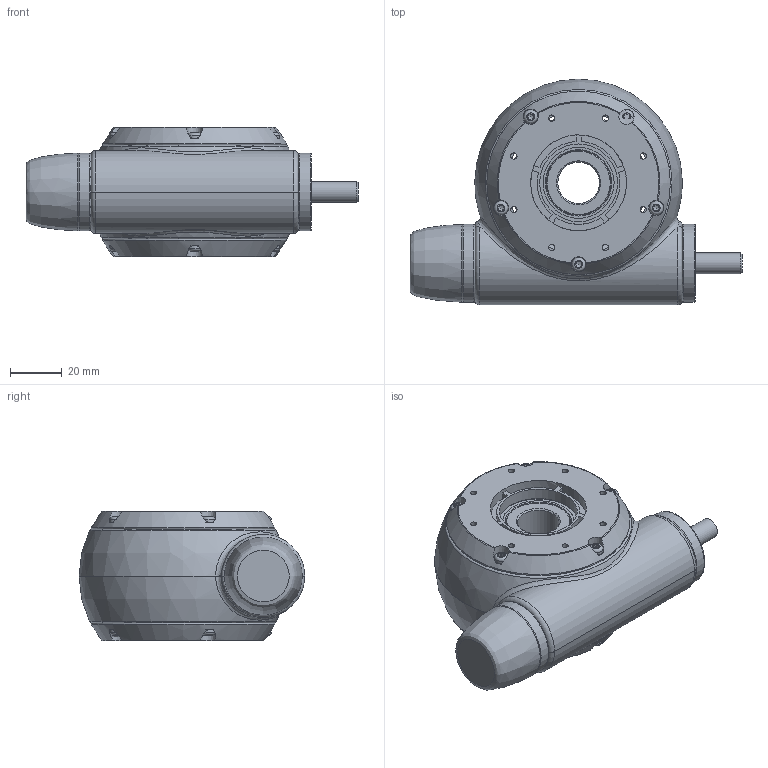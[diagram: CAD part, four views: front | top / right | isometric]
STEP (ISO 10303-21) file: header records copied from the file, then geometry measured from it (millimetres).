
FILE_DESCRIPTION(/* description */ (''),/* implementation_level */ '2;1');
FILE_NAME(/* name */ 'C:\ProgramData\PROCAD GmbH & Co. KG\NdfWork\343216_NdfWork\D00296340.step',/* time_stamp */ '2021-03-15T16:40:49+01:00',/* author */ ('fberger'),/* organization */ (''),/* preprocessor_version */ 'ST-DEVELOPER v18.1',/* originating_system */ 'Autodesk Inventor 2020',/* authorisation */ '');
FILE_SCHEMA (('AUTOMOTIVE_DESIGN { 1 0 10303 214 3 1 1 }'));
Length unit declared in the file: millimetre
Products named in the file (16): D00296340.iam; D00169642.ipt; D00169186.ipt; D00188918.ipt; D00184198.ipt; D00189428.ipt; D00188941.ipt; D00169185; D00187704.ipt; D00187700.ipt; D00187707.ipt; D00189422.ipt; D00270782.ipt; D00169074.ipt; D00170045.ipt; D00169073.ipt
Assembly tree (31 placements, depth 2):
  D00296340.iam
    D00169642.ipt  x2
    D00169186.ipt  x2
    D00188918.ipt  x2
    D00184198.ipt  x4
    D00189428.ipt
    D00188941.ipt  x2
    D00169185  x2
    D00187704.ipt  x2
    D00187700.ipt  x4
    D00187707.ipt  x4
    D00189422.ipt
    D00270782.ipt
    D00169074.ipt
    D00170045.ipt  x2
    D00169073.ipt
Bounding box: 128 x 87 x 50 mm (x, y, z)
Volume: 132292.4 mm3; surface area: 110053.5 mm2
Topology: 71 solids, 71 shells, 1039 faces, 2739 edges, 1871 vertices
Faces by surface type: cylinder 435, plane 295, cone 124, torus 98, sphere 80, bspline 7
Full cylindrical faces by diameter (mm): 2 x8, 2.4 x16, 3 x10, 3.3 x20, 4 x18, 5.3 x10, 8 x11, 8.32 x2, 10 x4, 12 x2, 15 x4, 15.68 x2, 16 x5, 17 x3, 20 x2, 23 x2, 24 x1, 25 x4, 26 x2, 27.4 x8, 28.5 x4, 30 x4, 33.3 x4, 34.3 x8, 37 x8, 41 x2, 52.5 x1, 55 x2
Entity records: 18449 total; most frequent: CARTESIAN_POINT 3951, DIRECTION 3138, ORIENTED_EDGE 2662, AXIS2_PLACEMENT_3D 1341, EDGE_CURVE 1331, VERTEX_POINT 930, CIRCLE 772, EDGE_LOOP 675
